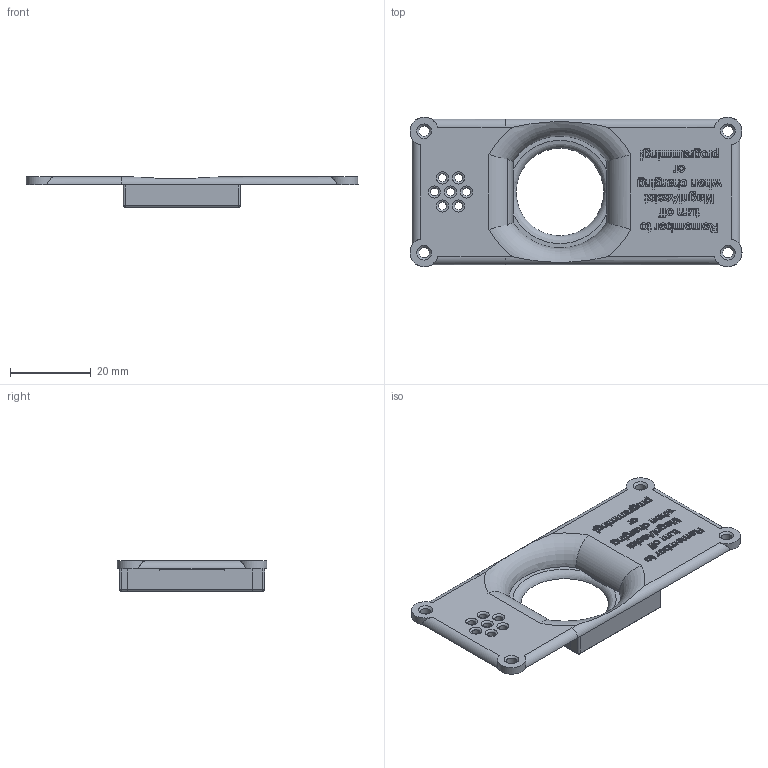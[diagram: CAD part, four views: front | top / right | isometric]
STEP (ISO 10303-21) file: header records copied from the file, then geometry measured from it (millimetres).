
FILE_DESCRIPTION(/* description */ (''),/* implementation_level */ '2;1');
FILE_NAME(/* name */ 'BodyCap.step',/* time_stamp */ '2026-09-30T10:55:03+13:00',/* author */ (''),/* organization */ (''),/* preprocessor_version */ 'ST-DEVELOPER v20.2',/* originating_system */ 'Autodesk Translation Framework v15.15.0.0',/* authorisation */ '');
FILE_SCHEMA (('AUTOMOTIVE_DESIGN { 1 0 10303 214 3 1 1 }'));
Length unit declared in the file: millimetre
Products named in the file (1): 2026-08-23-14-38-27-662
Bounding box: 81.99 x 36.99 x 7.5 mm (x, y, z)
Volume: 6502.1 mm3; surface area: 7015.2 mm2
Topology: 1 solids, 1 shells, 1254 faces, 3505 edges, 2327 vertices
Faces by surface type: bspline 739, plane 459, cylinder 42, torus 10, cone 4
Full cylindrical faces by diameter (mm): 2 x7, 2.6 x4
Entity records: 41290 total; most frequent: CARTESIAN_POINT 14021, ORIENTED_EDGE 7008, EDGE_CURVE 3504, DIRECTION 3139, VERTEX_POINT 2327, LINE 1911, VECTOR 1911, B_SPLINE_CURVE_WITH_KNOTS 1495
